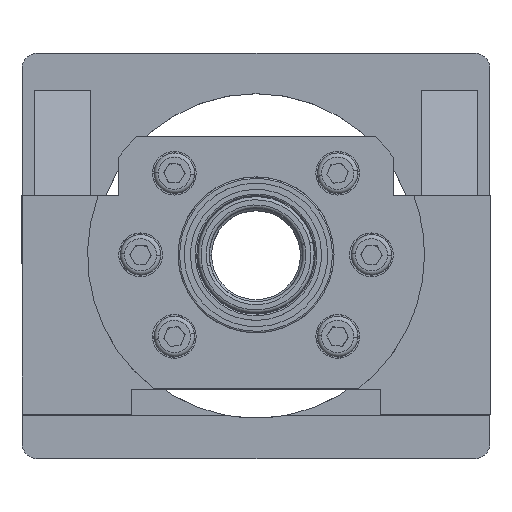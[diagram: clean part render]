
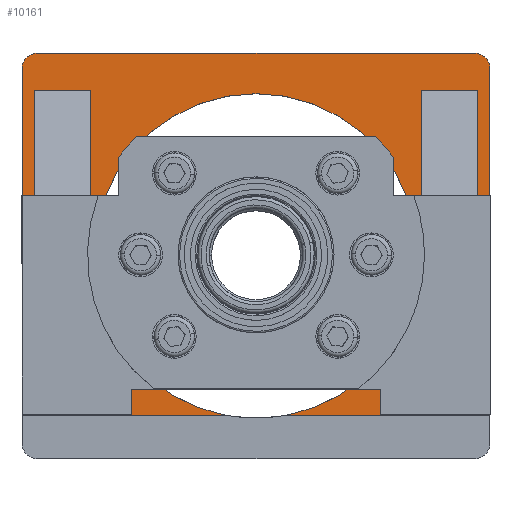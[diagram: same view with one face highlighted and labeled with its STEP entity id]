
A CAD part, top view. The second image highlights one B-rep face of the part: STEP entity #10161.
In plain terms, the highlighted planar face has unit normal (0, 0, 1).
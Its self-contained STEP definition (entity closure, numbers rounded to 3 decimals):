
#36 = FACE_BOUND ( 'NONE', #4922, .T. ) ;
#280 = VERTEX_POINT ( 'NONE', #6396 ) ;
#425 = VERTEX_POINT ( 'NONE', #8026 ) ;
#460 = ORIENTED_EDGE ( 'NONE', *, *, #7849, .F. ) ;
#465 = DIRECTION ( 'NONE',  ( -1., 0., 0. ) ) ;
#474 = VECTOR ( 'NONE', #7009, 1000. ) ;
#486 = VECTOR ( 'NONE', #6841, 1000. ) ;
#521 = DIRECTION ( 'NONE',  ( 1., 0., 0. ) ) ;
#638 = ORIENTED_EDGE ( 'NONE', *, *, #5931, .F. ) ;
#896 = DIRECTION ( 'NONE',  ( 1., 0., 0. ) ) ;
#1042 = LINE ( 'NONE', #11576, #5836 ) ;
#1064 = VERTEX_POINT ( 'NONE', #10241 ) ;
#1087 = CARTESIAN_POINT ( 'NONE',  ( -76.047, -51.01, 22. ) ) ;
#1165 = ORIENTED_EDGE ( 'NONE', *, *, #5329, .T. ) ;
#1203 = ORIENTED_EDGE ( 'NONE', *, *, #10470, .T. ) ;
#1247 = CARTESIAN_POINT ( 'NONE',  ( 71., 53., 22. ) ) ;
#1284 = CARTESIAN_POINT ( 'NONE',  ( -75., 65., 22. ) ) ;
#1378 = LINE ( 'NONE', #9124, #8751 ) ;
#1556 = AXIS2_PLACEMENT_3D ( 'NONE', #9830, #4074, #10786 ) ;
#1605 = CARTESIAN_POINT ( 'NONE',  ( 52., 0., 22. ) ) ;
#1726 = DIRECTION ( 'NONE',  ( 0., 0., 1. ) ) ;
#1752 = AXIS2_PLACEMENT_3D ( 'NONE', #7495, #1726, #8456 ) ;
#1859 = EDGE_CURVE ( 'NONE', #10180, #6500, #1042, .T. ) ;
#1871 = CARTESIAN_POINT ( 'NONE',  ( -76.047, -51.01, 22. ) ) ;
#2093 = VECTOR ( 'NONE', #465, 1000. ) ;
#2206 = VERTEX_POINT ( 'NONE', #3308 ) ;
#2251 = DIRECTION ( 'NONE',  ( 1., 0., 0. ) ) ;
#2298 = VECTOR ( 'NONE', #9426, 1000. ) ;
#2453 = CARTESIAN_POINT ( 'NONE',  ( -75., -51.01, 22. ) ) ;
#2619 = PLANE ( 'NONE',  #4197 ) ;
#2860 = CARTESIAN_POINT ( 'NONE',  ( -70., 60., 22. ) ) ;
#2991 = LINE ( 'NONE', #6035, #474 ) ;
#3081 = EDGE_CURVE ( 'NONE', #10632, #5250, #11070, .T. ) ;
#3167 = CARTESIAN_POINT ( 'NONE',  ( 71., -51., 22. ) ) ;
#3249 = EDGE_CURVE ( 'NONE', #3828, #7523, #4748, .T. ) ;
#3308 = CARTESIAN_POINT ( 'NONE',  ( -75., 60., 22. ) ) ;
#3318 = LINE ( 'NONE', #1087, #486 ) ;
#3339 = DIRECTION ( 'NONE',  ( 0., 1., 0. ) ) ;
#3679 = CARTESIAN_POINT ( 'NONE',  ( 71., 17., 22. ) ) ;
#3717 = CARTESIAN_POINT ( 'NONE',  ( -53., 53., 22. ) ) ;
#3771 = VECTOR ( 'NONE', #8009, 1000. ) ;
#3820 = VERTEX_POINT ( 'NONE', #9444 ) ;
#3828 = VERTEX_POINT ( 'NONE', #10397 ) ;
#3839 = DIRECTION ( 'NONE',  ( 1., 0., 0. ) ) ;
#4074 = DIRECTION ( 'NONE',  ( 0., 0., 1. ) ) ;
#4135 = CARTESIAN_POINT ( 'NONE',  ( -75., 65., 22. ) ) ;
#4197 = AXIS2_PLACEMENT_3D ( 'NONE', #4575, #11285, #5541 ) ;
#4246 = EDGE_LOOP ( 'NONE', ( #11469, #7993, #4764, #5624, #11992, #7518, #5543, #4915, #9120, #1203 ) ) ;
#4531 = EDGE_CURVE ( 'NONE', #8105, #425, #7284, .T. ) ;
#4561 = LINE ( 'NONE', #3679, #2298 ) ;
#4575 = CARTESIAN_POINT ( 'NONE',  ( -75., -65., 22. ) ) ;
#4612 = CARTESIAN_POINT ( 'NONE',  ( 53., -51., 22. ) ) ;
#4713 = VECTOR ( 'NONE', #7052, 1000. ) ;
#4748 = LINE ( 'NONE', #4135, #9561 ) ;
#4753 = EDGE_CURVE ( 'NONE', #8349, #6500, #4561, .T. ) ;
#4764 = ORIENTED_EDGE ( 'NONE', *, *, #11018, .F. ) ;
#4915 = ORIENTED_EDGE ( 'NONE', *, *, #3249, .T. ) ;
#4922 = EDGE_LOOP ( 'NONE', ( #5817, #1165, #5550, #9312 ) ) ;
#4939 = VERTEX_POINT ( 'NONE', #8794 ) ;
#5136 = FACE_BOUND ( 'NONE', #10938, .T. ) ;
#5214 = CARTESIAN_POINT ( 'NONE',  ( -70., 65., 22. ) ) ;
#5250 = VERTEX_POINT ( 'NONE', #6456 ) ;
#5286 = LINE ( 'NONE', #10528, #10085 ) ;
#5322 = VERTEX_POINT ( 'NONE', #3717 ) ;
#5329 = EDGE_CURVE ( 'NONE', #10180, #8380, #11905, .T. ) ;
#5333 = AXIS2_PLACEMENT_3D ( 'NONE', #12381, #6652, #896 ) ;
#5541 = DIRECTION ( 'NONE',  ( 1., 0., 0. ) ) ;
#5543 = ORIENTED_EDGE ( 'NONE', *, *, #7860, .T. ) ;
#5550 = ORIENTED_EDGE ( 'NONE', *, *, #6602, .F. ) ;
#5562 = CIRCLE ( 'NONE', #10209, 5. ) ;
#5624 = ORIENTED_EDGE ( 'NONE', *, *, #9691, .F. ) ;
#5764 = AXIS2_PLACEMENT_3D ( 'NONE', #2860, #9599, #3839 ) ;
#5817 = ORIENTED_EDGE ( 'NONE', *, *, #1859, .F. ) ;
#5836 = VECTOR ( 'NONE', #11958, 1000. ) ;
#5931 = EDGE_CURVE ( 'NONE', #4939, #280, #5286, .T. ) ;
#5963 = VECTOR ( 'NONE', #2251, 1000. ) ;
#6035 = CARTESIAN_POINT ( 'NONE',  ( -75., 53., 22. ) ) ;
#6248 = DIRECTION ( 'NONE',  ( 0., 0., 1. ) ) ;
#6320 = CIRCLE ( 'NONE', #1556, 52. ) ;
#6396 = CARTESIAN_POINT ( 'NONE',  ( -53., -51., 22. ) ) ;
#6447 = EDGE_CURVE ( 'NONE', #3820, #8105, #3318, .T. ) ;
#6456 = CARTESIAN_POINT ( 'NONE',  ( -10.099, -51.01, 22. ) ) ;
#6500 = VERTEX_POINT ( 'NONE', #3167 ) ;
#6602 = EDGE_CURVE ( 'NONE', #8349, #8380, #11418, .T. ) ;
#6613 = EDGE_CURVE ( 'NONE', #280, #5322, #1378, .T. ) ;
#6652 = DIRECTION ( 'NONE',  ( 0., 0., 1. ) ) ;
#6811 = VECTOR ( 'NONE', #7586, 1000. ) ;
#6841 = DIRECTION ( 'NONE',  ( 1., 0., 0. ) ) ;
#6873 = ORIENTED_EDGE ( 'NONE', *, *, #6613, .F. ) ;
#7009 = DIRECTION ( 'NONE',  ( -1., 0., 0. ) ) ;
#7052 = DIRECTION ( 'NONE',  ( 0., 1., 0. ) ) ;
#7105 = LINE ( 'NONE', #10359, #9340 ) ;
#7284 = LINE ( 'NONE', #10861, #4713 ) ;
#7495 = CARTESIAN_POINT ( 'NONE',  ( 0., 0., 22. ) ) ;
#7518 = ORIENTED_EDGE ( 'NONE', *, *, #4531, .T. ) ;
#7523 = VERTEX_POINT ( 'NONE', #5214 ) ;
#7586 = DIRECTION ( 'NONE',  ( 0., 1., 0. ) ) ;
#7849 = EDGE_CURVE ( 'NONE', #5322, #11704, #2991, .T. ) ;
#7860 = EDGE_CURVE ( 'NONE', #425, #3828, #5562, .T. ) ;
#7993 = ORIENTED_EDGE ( 'NONE', *, *, #8634, .F. ) ;
#8009 = DIRECTION ( 'NONE',  ( 0., -1., 0. ) ) ;
#8026 = CARTESIAN_POINT ( 'NONE',  ( 75., 60., 22. ) ) ;
#8045 = DIRECTION ( 'NONE',  ( -1., 0., 0. ) ) ;
#8105 = VERTEX_POINT ( 'NONE', #9722 ) ;
#8349 = VERTEX_POINT ( 'NONE', #1247 ) ;
#8380 = VERTEX_POINT ( 'NONE', #9889 ) ;
#8456 = DIRECTION ( 'NONE',  ( 1., 0., 0. ) ) ;
#8634 = EDGE_CURVE ( 'NONE', #1064, #5250, #8908, .T. ) ;
#8665 = CIRCLE ( 'NONE', #5764, 5. ) ;
#8751 = VECTOR ( 'NONE', #3339, 1000. ) ;
#8794 = CARTESIAN_POINT ( 'NONE',  ( -71., -51., 22. ) ) ;
#8879 = CIRCLE ( 'NONE', #5333, 52. ) ;
#8908 = CIRCLE ( 'NONE', #1752, 52. ) ;
#9087 = CARTESIAN_POINT ( 'NONE',  ( -75., 53., 22. ) ) ;
#9120 = ORIENTED_EDGE ( 'NONE', *, *, #11889, .T. ) ;
#9124 = CARTESIAN_POINT ( 'NONE',  ( -53., 17., 22. ) ) ;
#9312 = ORIENTED_EDGE ( 'NONE', *, *, #4753, .T. ) ;
#9340 = VECTOR ( 'NONE', #11326, 1000. ) ;
#9426 = DIRECTION ( 'NONE',  ( 0., -1., 0. ) ) ;
#9444 = CARTESIAN_POINT ( 'NONE',  ( 10.099, -51.01, 22. ) ) ;
#9561 = VECTOR ( 'NONE', #8045, 1000. ) ;
#9599 = DIRECTION ( 'NONE',  ( 0., 0., 1. ) ) ;
#9610 = VERTEX_POINT ( 'NONE', #1605 ) ;
#9691 = EDGE_CURVE ( 'NONE', #3820, #9610, #8879, .T. ) ;
#9722 = CARTESIAN_POINT ( 'NONE',  ( 75., -51.01, 22. ) ) ;
#9830 = CARTESIAN_POINT ( 'NONE',  ( 0., 0., 22. ) ) ;
#9889 = CARTESIAN_POINT ( 'NONE',  ( 53., 53., 22. ) ) ;
#9942 = FACE_OUTER_BOUND ( 'NONE', #4246, .T. ) ;
#10014 = ORIENTED_EDGE ( 'NONE', *, *, #10183, .F. ) ;
#10085 = VECTOR ( 'NONE', #12414, 1000. ) ;
#10161 = ADVANCED_FACE ( 'NONE', ( #9942, #5136, #36 ), #2619, .T. ) ;
#10180 = VERTEX_POINT ( 'NONE', #4612 ) ;
#10183 = EDGE_CURVE ( 'NONE', #11704, #4939, #7105, .T. ) ;
#10209 = AXIS2_PLACEMENT_3D ( 'NONE', #11820, #6248, #521 ) ;
#10241 = CARTESIAN_POINT ( 'NONE',  ( -52., 0., 22. ) ) ;
#10359 = CARTESIAN_POINT ( 'NONE',  ( -71., 17., 22. ) ) ;
#10397 = CARTESIAN_POINT ( 'NONE',  ( 70., 65., 22. ) ) ;
#10470 = EDGE_CURVE ( 'NONE', #2206, #10632, #11139, .T. ) ;
#10528 = CARTESIAN_POINT ( 'NONE',  ( -71., -51., 22. ) ) ;
#10632 = VERTEX_POINT ( 'NONE', #2453 ) ;
#10786 = DIRECTION ( 'NONE',  ( 1., 0., 0. ) ) ;
#10861 = CARTESIAN_POINT ( 'NONE',  ( 75., 65., 22. ) ) ;
#10938 = EDGE_LOOP ( 'NONE', ( #638, #10014, #460, #6873 ) ) ;
#11018 = EDGE_CURVE ( 'NONE', #9610, #1064, #6320, .T. ) ;
#11070 = LINE ( 'NONE', #1871, #5963 ) ;
#11139 = LINE ( 'NONE', #1284, #3771 ) ;
#11233 = CARTESIAN_POINT ( 'NONE',  ( -71., 53., 22. ) ) ;
#11285 = DIRECTION ( 'NONE',  ( 0., 0., 1. ) ) ;
#11326 = DIRECTION ( 'NONE',  ( 0., -1., 0. ) ) ;
#11418 = LINE ( 'NONE', #9087, #2093 ) ;
#11469 = ORIENTED_EDGE ( 'NONE', *, *, #3081, .T. ) ;
#11576 = CARTESIAN_POINT ( 'NONE',  ( 53., -51., 22. ) ) ;
#11704 = VERTEX_POINT ( 'NONE', #11233 ) ;
#11820 = CARTESIAN_POINT ( 'NONE',  ( 70., 60., 22. ) ) ;
#11889 = EDGE_CURVE ( 'NONE', #7523, #2206, #8665, .T. ) ;
#11905 = LINE ( 'NONE', #12354, #6811 ) ;
#11958 = DIRECTION ( 'NONE',  ( 1., 0., 0. ) ) ;
#11992 = ORIENTED_EDGE ( 'NONE', *, *, #6447, .T. ) ;
#12354 = CARTESIAN_POINT ( 'NONE',  ( 53., 17., 22. ) ) ;
#12381 = CARTESIAN_POINT ( 'NONE',  ( 0., 0., 22. ) ) ;
#12414 = DIRECTION ( 'NONE',  ( 1., 0., 0. ) ) ;
